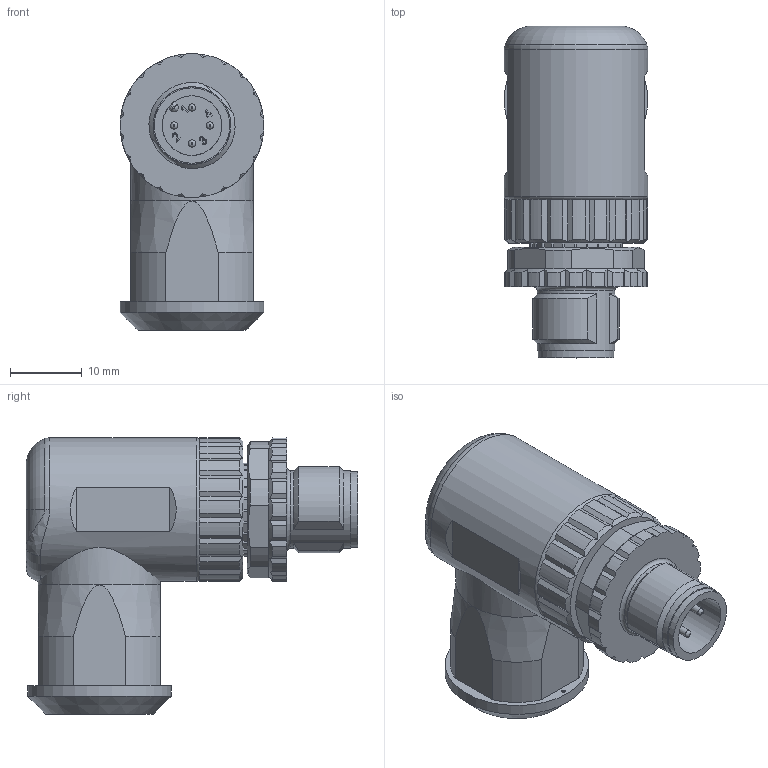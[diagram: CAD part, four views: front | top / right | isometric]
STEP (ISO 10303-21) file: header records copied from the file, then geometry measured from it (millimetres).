
FILE_DESCRIPTION(/* description */ (''),/* implementation_level */ '2;1');
FILE_NAME(/* name */ 'K:\Step\43\43K1A4054_4pol.stp',/* time_stamp */ '2018-01-10T15:01:27+01:00',/* author */ ('RuthChristen'),/* organization */ (''),/* preprocessor_version */ 'ST-DEVELOPER v16.13',/* originating_system */ 'Autodesk Inventor 2018',/* authorisation */ '');
FILE_SCHEMA (('AUTOMOTIVE_DESIGN { 1 0 10303 214 3 1 1 }'));
Length unit declared in the file: millimetre
Products named in the file (1): Bauteil8
Bounding box: 20 x 46.2 x 38.5 mm (x, y, z)
Volume: 16296.4 mm3; surface area: 5112.3 mm2
Topology: 1 solids, 1 shells, 397 faces, 1085 edges, 716 vertices
Faces by surface type: plane 246, cylinder 92, bspline 41, cone 12, torus 6
Full cylindrical faces by diameter (mm): 0.5 x1, 1.01 x4, 8.3 x1, 10.5 x1, 10.8 x1, 17 x1, 20 x2
Entity records: 13352 total; most frequent: CARTESIAN_POINT 3323, ORIENTED_EDGE 2116, DIRECTION 1815, EDGE_CURVE 1058, VERTEX_POINT 708, LINE 649, VECTOR 649, AXIS2_PLACEMENT_3D 583
